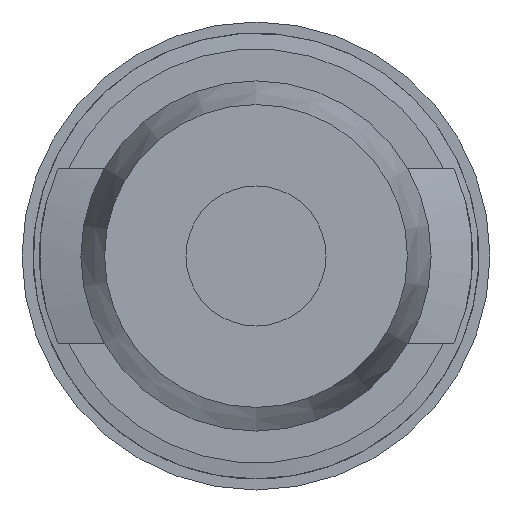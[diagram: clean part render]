
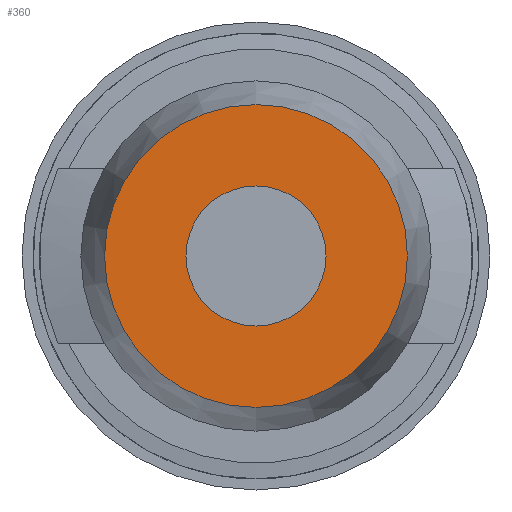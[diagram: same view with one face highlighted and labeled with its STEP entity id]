
A CAD part, left-side view. The second image highlights one B-rep face of the part: STEP entity #360.
In plain terms, the highlighted planar face has unit normal (-1, 0, 0).
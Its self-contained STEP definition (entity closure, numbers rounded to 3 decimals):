
#360 = ADVANCED_FACE( '', ( #761, #762 ), #763, .T. );
#761 = FACE_OUTER_BOUND( '', #1175, .T. );
#762 = FACE_BOUND( '', #1176, .T. );
#763 = PLANE( '', #1177 );
#1175 = EDGE_LOOP( '', ( #2205 ) );
#1176 = EDGE_LOOP( '', ( #2206 ) );
#1177 = AXIS2_PLACEMENT_3D( '', #2207, #2208, #2209 );
#2205 = ORIENTED_EDGE( '', *, *, #2547, .F. );
#2206 = ORIENTED_EDGE( '', *, *, #2567, .F. );
#2207 = CARTESIAN_POINT( '', ( -35., 0., -3.149 ) );
#2208 = DIRECTION( '', ( -1., 0., 0. ) );
#2209 = DIRECTION( '', ( 0., -0.707, 0.707 ) );
#2547 = EDGE_CURVE( '', #3093, #3093, #3094, .T. );
#2567 = EDGE_CURVE( '', #3119, #3119, #3120, .T. );
#3093 = VERTEX_POINT( '', #4932 );
#3094 = CIRCLE( '', #4933, 4.756 );
#3119 = VERTEX_POINT( '', #5019 );
#3120 = CIRCLE( '', #5020, 2.2 );
#4932 = CARTESIAN_POINT( '', ( -35., 0., 4.756 ) );
#4933 = AXIS2_PLACEMENT_3D( '', #5632, #5633, #5634 );
#5019 = CARTESIAN_POINT( '', ( -35., 2.2, 0. ) );
#5020 = AXIS2_PLACEMENT_3D( '', #5652, #5653, #5654 );
#5632 = CARTESIAN_POINT( '', ( -35., 0., 0. ) );
#5633 = DIRECTION( '', ( 1., 0., 0. ) );
#5634 = DIRECTION( '', ( 0., 0., 1. ) );
#5652 = CARTESIAN_POINT( '', ( -35., 0., 0. ) );
#5653 = DIRECTION( '', ( -1., 0., 0. ) );
#5654 = DIRECTION( '', ( 0., 1., 0. ) );
